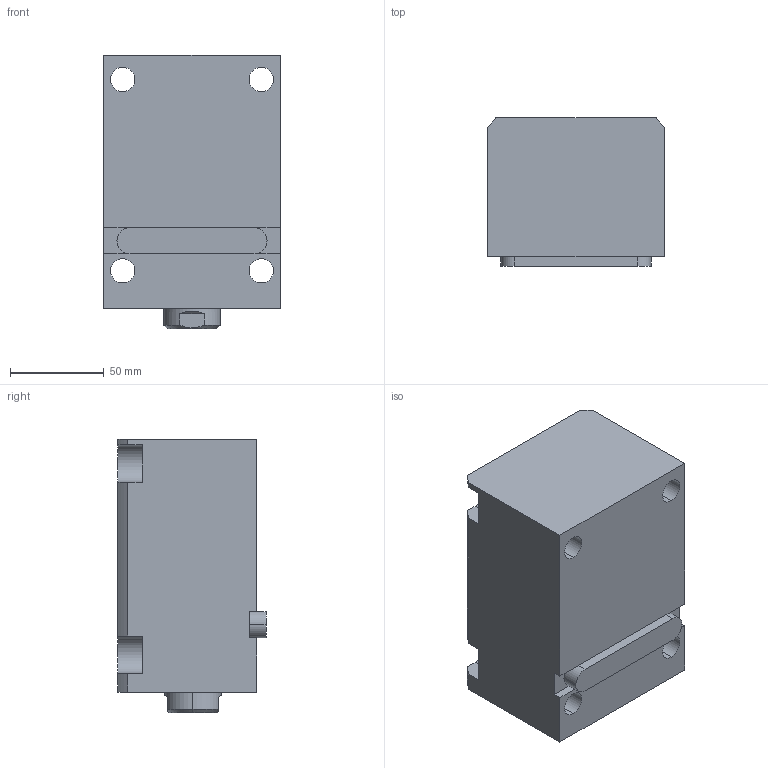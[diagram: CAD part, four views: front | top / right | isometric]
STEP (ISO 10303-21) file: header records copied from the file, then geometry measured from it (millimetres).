
FILE_DESCRIPTION (( 'STEP AP203' ), '1' );
FILE_NAME ('CHTB-LA50-75N.STEP', '2018-05-18T01:46:42', ( '' ), ( '' ), 'SwSTEP 2.0', 'SolidWorks 2015', '' );
FILE_SCHEMA (( 'CONFIG_CONTROL_DESIGN' ));
Length unit declared in the file: millimetre
Products named in the file (4): CHTM-SDMA50QG; 掛极LA50-75N; CHTB-LA50-75N; 活塞杆LA50-75N
Assembly tree (3 placements, depth 2):
  CHTB-LA50-75N
    掛极LA50-75N
    活塞杆LA50-75N
    CHTM-SDMA50QG
Bounding box: 94 x 79 x 146 mm (x, y, z)
Volume: 788290 mm3; surface area: 127244.6 mm2
Topology: 3 solids, 3 shells, 202 faces, 542 edges, 358 vertices
Faces by surface type: cylinder 96, plane 53, cone 23, torus 16, bspline 14
Entity records: 11255 total; most frequent: CARTESIAN_POINT 5992, ORIENTED_EDGE 1072, DIRECTION 958, EDGE_CURVE 536, AXIS2_PLACEMENT_3D 377, VERTEX_POINT 358, EDGE_LOOP 234, LINE 204
